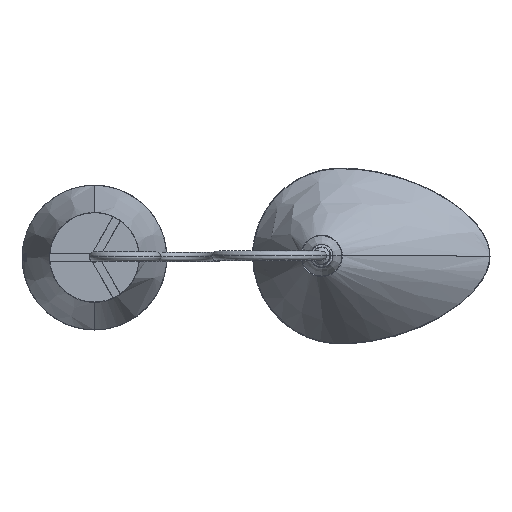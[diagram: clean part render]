
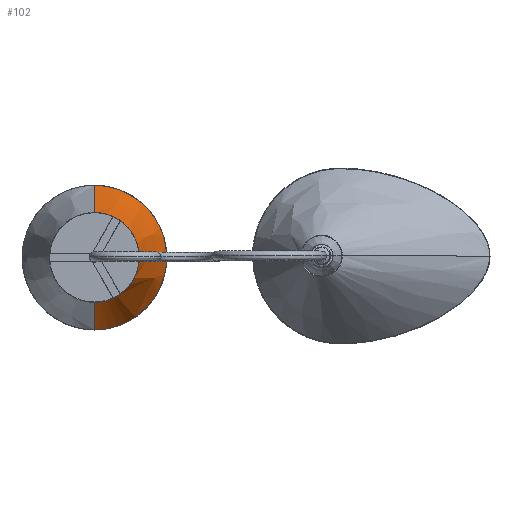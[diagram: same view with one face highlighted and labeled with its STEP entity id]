
A CAD part, top view. The second image highlights one B-rep face of the part: STEP entity #102.
In plain terms, the highlighted free-form (B-spline) face has degree [3, 2] with [4, 5] control points.
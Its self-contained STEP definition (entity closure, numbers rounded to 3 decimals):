
#102=ADVANCED_FACE('',(#175),#1031,.T.);
#175=FACE_OUTER_BOUND('',#249,.T.);
#249=EDGE_LOOP('',(#505,#506,#507,#508,#509,#510,#511,#512,#513,#514,#515,
#516));
#505=ORIENTED_EDGE('',*,*,#693,.T.);
#506=ORIENTED_EDGE('',*,*,#670,.T.);
#507=ORIENTED_EDGE('',*,*,#654,.F.);
#508=ORIENTED_EDGE('',*,*,#651,.T.);
#509=ORIENTED_EDGE('',*,*,#673,.T.);
#510=ORIENTED_EDGE('',*,*,#669,.T.);
#511=ORIENTED_EDGE('',*,*,#653,.F.);
#512=ORIENTED_EDGE('',*,*,#650,.T.);
#513=ORIENTED_EDGE('',*,*,#681,.T.);
#514=ORIENTED_EDGE('',*,*,#674,.T.);
#515=ORIENTED_EDGE('',*,*,#694,.F.);
#516=ORIENTED_EDGE('',*,*,#692,.F.);
#650=EDGE_CURVE('',#924,#938,#753,.T.);
#651=EDGE_CURVE('',#926,#940,#754,.T.);
#653=EDGE_CURVE('',#924,#923,#821,.T.);
#654=EDGE_CURVE('',#926,#925,#822,.T.);
#669=EDGE_CURVE('',#937,#923,#759,.T.);
#670=EDGE_CURVE('',#939,#925,#760,.T.);
#673=EDGE_CURVE('',#940,#937,#835,.T.);
#674=EDGE_CURVE('',#946,#948,#836,.T.);
#681=EDGE_CURVE('',#938,#946,#841,.T.);
#692=EDGE_CURVE('',#950,#951,#846,.T.);
#693=EDGE_CURVE('',#950,#939,#847,.T.);
#694=EDGE_CURVE('',#951,#948,#848,.T.);
#753=B_SPLINE_CURVE_WITH_KNOTS('',3,(#6662,#6663,#6664,#6665),
 .UNSPECIFIED.,.F.,.F.,(4,4),(0.,0.704),.UNSPECIFIED.);
#754=B_SPLINE_CURVE_WITH_KNOTS('',3,(#6666,#6667,#6668,#6669),
 .UNSPECIFIED.,.F.,.F.,(4,4),(0.,0.704),.UNSPECIFIED.);
#759=B_SPLINE_CURVE_WITH_KNOTS('',3,(#6731,#6732,#6733,#6734),
 .UNSPECIFIED.,.F.,.F.,(4,4),(0.356,1.059),
 .UNSPECIFIED.);
#760=B_SPLINE_CURVE_WITH_KNOTS('',3,(#6735,#6736,#6737,#6738),
 .UNSPECIFIED.,.F.,.F.,(4,4),(0.356,1.059),
 .UNSPECIFIED.);
#821=(
BOUNDED_CURVE()
B_SPLINE_CURVE(2,(#6674,#6675,#6676),.UNSPECIFIED.,.F.,.F.)
B_SPLINE_CURVE_WITH_KNOTS((3,3),(46.881,65.518),
 .UNSPECIFIED.)
CURVE()
GEOMETRIC_REPRESENTATION_ITEM()
RATIONAL_B_SPLINE_CURVE((1.,0.996,1.))
REPRESENTATION_ITEM('')
);
#822=(
BOUNDED_CURVE()
B_SPLINE_CURVE(2,(#6677,#6678,#6679),.UNSPECIFIED.,.F.,.F.)
B_SPLINE_CURVE_WITH_KNOTS((3,3),(264.349,282.986),
 .UNSPECIFIED.)
CURVE()
GEOMETRIC_REPRESENTATION_ITEM()
RATIONAL_B_SPLINE_CURVE((1.,0.996,1.))
REPRESENTATION_ITEM('')
);
#835=(
BOUNDED_CURVE()
B_SPLINE_CURVE(2,(#6746,#6747,#6748,#6749,#6750),.UNSPECIFIED.,.F.,.F.)
B_SPLINE_CURVE_WITH_KNOTS((3,2,3),(-0.091,61.719,
123.53),.UNSPECIFIED.)
CURVE()
GEOMETRIC_REPRESENTATION_ITEM()
RATIONAL_B_SPLINE_CURVE((1.,0.888,1.,0.888,1.))
REPRESENTATION_ITEM('')
);
#836=(
BOUNDED_CURVE()
B_SPLINE_CURVE(3,(#6751,#6752,#6753,#6754),.UNSPECIFIED.,.F.,.F.)
B_SPLINE_CURVE_WITH_KNOTS((4,4),(0.033,11.295),
 .UNSPECIFIED.)
CURVE()
GEOMETRIC_REPRESENTATION_ITEM()
RATIONAL_B_SPLINE_CURVE((1.,1.,1.,1.))
REPRESENTATION_ITEM('')
);
#841=(
BOUNDED_CURVE()
B_SPLINE_CURVE(3,(#6814,#6815,#6816,#6817),.UNSPECIFIED.,.F.,.F.)
B_SPLINE_CURVE_WITH_KNOTS((4,4),(-0.011,27.872),
 .UNSPECIFIED.)
CURVE()
GEOMETRIC_REPRESENTATION_ITEM()
RATIONAL_B_SPLINE_CURVE((1.,1.,1.,1.))
REPRESENTATION_ITEM('')
);
#846=(
BOUNDED_CURVE()
B_SPLINE_CURVE(3,(#7004,#7005,#7006,#7007),.UNSPECIFIED.,.F.,.F.)
B_SPLINE_CURVE_WITH_KNOTS((4,4),(0.033,11.295),
 .UNSPECIFIED.)
CURVE()
GEOMETRIC_REPRESENTATION_ITEM()
RATIONAL_B_SPLINE_CURVE((1.,1.,1.,1.))
REPRESENTATION_ITEM('')
);
#847=(
BOUNDED_CURVE()
B_SPLINE_CURVE(2,(#7008,#7009,#7010,#7011,#7012),.UNSPECIFIED.,.F.,.F.)
B_SPLINE_CURVE_WITH_KNOTS((3,2,3),(94.803,94.803,123.52),
 .UNSPECIFIED.)
CURVE()
GEOMETRIC_REPRESENTATION_ITEM()
RATIONAL_B_SPLINE_CURVE((1.,1.,1.,0.977,1.))
REPRESENTATION_ITEM('')
);
#848=(
BOUNDED_CURVE()
B_SPLINE_CURVE(2,(#7013,#7014,#7015,#7016,#7017),.UNSPECIFIED.,.F.,.F.)
B_SPLINE_CURVE_WITH_KNOTS((3,2,3),(328.981,493.472,657.963),
 .UNSPECIFIED.)
CURVE()
GEOMETRIC_REPRESENTATION_ITEM()
RATIONAL_B_SPLINE_CURVE((1.,0.707,1.,0.707,1.))
REPRESENTATION_ITEM('')
);
#923=VERTEX_POINT('',#6624);
#924=VERTEX_POINT('',#6625);
#925=VERTEX_POINT('',#6626);
#926=VERTEX_POINT('',#6627);
#937=VERTEX_POINT('',#6638);
#938=VERTEX_POINT('',#6639);
#939=VERTEX_POINT('',#6640);
#940=VERTEX_POINT('',#6641);
#946=VERTEX_POINT('',#6647);
#948=VERTEX_POINT('',#6649);
#950=VERTEX_POINT('',#6651);
#951=VERTEX_POINT('',#6652);
#1031=(
BOUNDED_SURFACE()
B_SPLINE_SURFACE(3,2,((#6562,#6563,#6564,#6565,#6566),(#6567,#6568,#6569,
#6570,#6571),(#6572,#6573,#6574,#6575,#6576),(#6577,#6578,#6579,#6580,#6581)),
 .UNSPECIFIED.,.F.,.F.,.F.)
B_SPLINE_SURFACE_WITH_KNOTS((4,4),(3,2,3),(0.,11.321),(0.,164.934,
329.867),.UNSPECIFIED.)
GEOMETRIC_REPRESENTATION_ITEM()
RATIONAL_B_SPLINE_SURFACE(((1.,0.707,1.,0.707,1.),
(1.,0.707,1.,0.707,1.),(1.,0.707,1.,
0.707,1.),(1.,0.707,1.,0.707,1.)))
REPRESENTATION_ITEM('')
SURFACE()
);
#6562=CARTESIAN_POINT('',(104.908,62.505,117.));
#6563=CARTESIAN_POINT('',(169.908,62.505,117.));
#6564=CARTESIAN_POINT('',(169.908,127.505,117.));
#6565=CARTESIAN_POINT('',(169.908,192.505,117.));
#6566=CARTESIAN_POINT('',(104.908,192.505,117.));
#6567=CARTESIAN_POINT('',(104.908,49.172,78.667));
#6568=CARTESIAN_POINT('',(183.241,49.172,78.667));
#6569=CARTESIAN_POINT('',(183.241,127.505,78.667));
#6570=CARTESIAN_POINT('',(183.241,205.838,78.667));
#6571=CARTESIAN_POINT('',(104.908,205.838,78.667));
#6572=CARTESIAN_POINT('',(104.908,35.838,40.333));
#6573=CARTESIAN_POINT('',(196.574,35.838,40.333));
#6574=CARTESIAN_POINT('',(196.574,127.505,40.333));
#6575=CARTESIAN_POINT('',(196.574,219.172,40.333));
#6576=CARTESIAN_POINT('',(104.908,219.172,40.333));
#6577=CARTESIAN_POINT('',(104.908,22.505,2.));
#6578=CARTESIAN_POINT('',(209.908,22.505,2.));
#6579=CARTESIAN_POINT('',(209.908,127.505,2.));
#6580=CARTESIAN_POINT('',(209.908,232.505,2.));
#6581=CARTESIAN_POINT('',(104.908,232.505,2.));
#6624=CARTESIAN_POINT('',(142.64,74.151,116.));
#6625=CARTESIAN_POINT('',(132.248,68.151,116.));
#6626=CARTESIAN_POINT('',(132.248,186.859,116.));
#6627=CARTESIAN_POINT('',(142.64,180.859,116.));
#6638=CARTESIAN_POINT('',(142.524,74.352,116.664));
#6639=CARTESIAN_POINT('',(132.132,68.352,116.664));
#6640=CARTESIAN_POINT('',(132.132,186.658,116.664));
#6641=CARTESIAN_POINT('',(142.524,180.658,116.664));
#6647=CARTESIAN_POINT('',(104.908,62.388,116.664));
#6649=CARTESIAN_POINT('',(104.908,22.597,2.266));
#6651=CARTESIAN_POINT('',(104.908,192.622,116.664));
#6652=CARTESIAN_POINT('',(104.908,232.412,2.266));
#6662=CARTESIAN_POINT('',(132.248,68.151,116.));
#6663=CARTESIAN_POINT('',(132.209,68.218,116.221));
#6664=CARTESIAN_POINT('',(132.17,68.285,116.443));
#6665=CARTESIAN_POINT('',(132.132,68.352,116.664));
#6666=CARTESIAN_POINT('',(142.64,180.859,116.));
#6667=CARTESIAN_POINT('',(142.601,180.792,116.221));
#6668=CARTESIAN_POINT('',(142.563,180.725,116.443));
#6669=CARTESIAN_POINT('',(142.524,180.658,116.664));
#6674=CARTESIAN_POINT('',(132.248,68.151,116.));
#6675=CARTESIAN_POINT('',(137.72,70.672,116.));
#6676=CARTESIAN_POINT('',(142.64,74.151,116.));
#6677=CARTESIAN_POINT('',(142.64,180.859,116.));
#6678=CARTESIAN_POINT('',(137.72,184.338,116.));
#6679=CARTESIAN_POINT('',(132.248,186.859,116.));
#6731=CARTESIAN_POINT('',(142.524,74.352,116.664));
#6732=CARTESIAN_POINT('',(142.563,74.285,116.443));
#6733=CARTESIAN_POINT('',(142.601,74.218,116.221));
#6734=CARTESIAN_POINT('',(142.64,74.151,116.));
#6735=CARTESIAN_POINT('',(132.132,186.658,116.664));
#6736=CARTESIAN_POINT('',(132.17,186.725,116.443));
#6737=CARTESIAN_POINT('',(132.209,186.792,116.221));
#6738=CARTESIAN_POINT('',(132.248,186.859,116.));
#6746=CARTESIAN_POINT('',(142.524,180.658,116.664));
#6747=CARTESIAN_POINT('',(170.025,161.196,116.664));
#6748=CARTESIAN_POINT('',(170.025,127.505,116.664));
#6749=CARTESIAN_POINT('',(170.025,93.814,116.664));
#6750=CARTESIAN_POINT('',(142.524,74.352,116.664));
#6751=CARTESIAN_POINT('',(104.908,62.388,116.664));
#6752=CARTESIAN_POINT('',(104.908,49.125,78.531));
#6753=CARTESIAN_POINT('',(104.908,35.861,40.399));
#6754=CARTESIAN_POINT('',(104.908,22.597,2.266));
#6814=CARTESIAN_POINT('',(132.132,68.352,116.664));
#6815=CARTESIAN_POINT('',(123.628,64.433,116.664));
#6816=CARTESIAN_POINT('',(114.271,62.381,116.664));
#6817=CARTESIAN_POINT('',(104.908,62.388,116.664));
#7004=CARTESIAN_POINT('',(104.908,192.622,116.664));
#7005=CARTESIAN_POINT('',(104.908,205.885,78.531));
#7006=CARTESIAN_POINT('',(104.908,219.149,40.399));
#7007=CARTESIAN_POINT('',(104.908,232.412,2.266));
#7008=CARTESIAN_POINT('',(104.908,192.622,116.664));
#7009=CARTESIAN_POINT('',(104.908,192.622,116.664));
#7010=CARTESIAN_POINT('',(104.908,192.622,116.664));
#7011=CARTESIAN_POINT('',(119.173,192.622,116.664));
#7012=CARTESIAN_POINT('',(132.132,186.658,116.664));
#7013=CARTESIAN_POINT('',(104.908,232.412,2.266));
#7014=CARTESIAN_POINT('',(209.815,232.412,2.266));
#7015=CARTESIAN_POINT('',(209.815,127.505,2.266));
#7016=CARTESIAN_POINT('',(209.815,22.597,2.266));
#7017=CARTESIAN_POINT('',(104.908,22.597,2.266));
